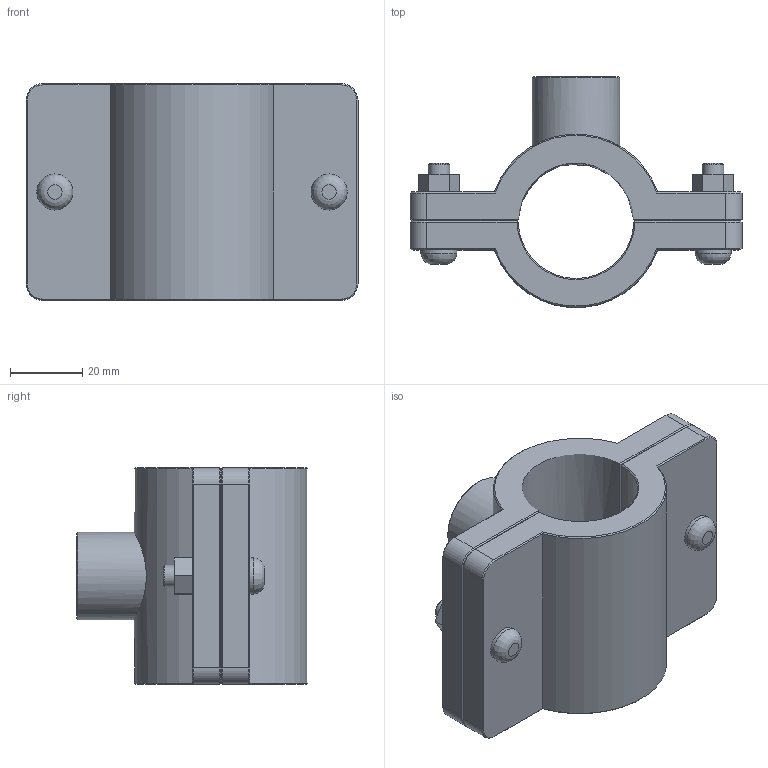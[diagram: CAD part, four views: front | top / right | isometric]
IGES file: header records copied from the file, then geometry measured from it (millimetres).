
Global section: file name: 160760032005_160860032005.ipt; native system: Autodesk Inventor 2015; preprocessor: unknown; author: KIM; date: 20170618.093440; units: millimetre
Bounding box: 92 x 63.92 x 60 mm (x, y, z)
Volume: 105786.4 mm3; surface area: 33398.2 mm2
Topology: 1 solids, 1 shells, 113 faces, 262 edges, 161 vertices
Faces by surface type: plane 64, cone 23, cylinder 17, revolution 9
Full cylindrical faces by diameter (mm): 6 x2, 10 x4, 24.22 x1
